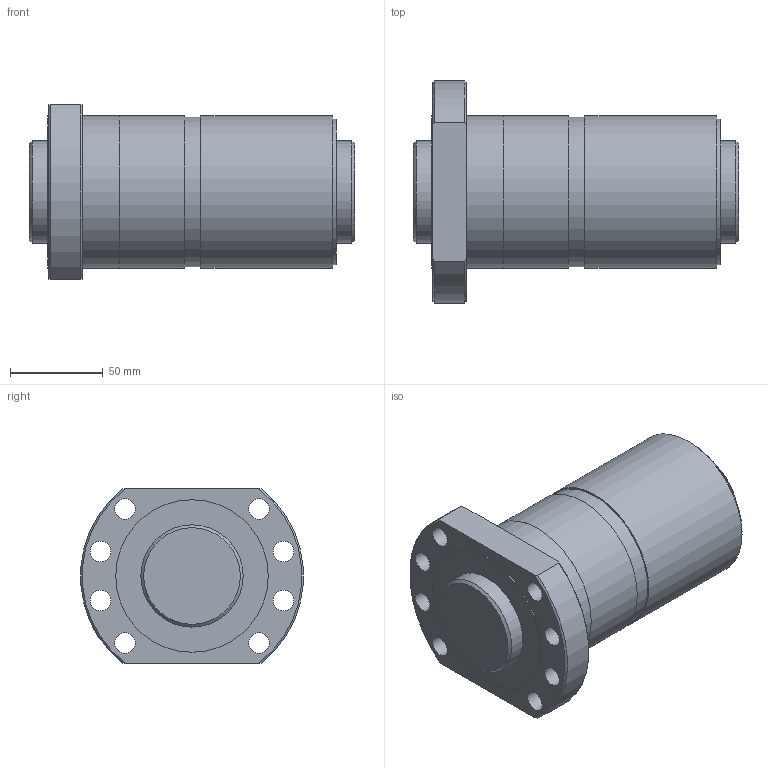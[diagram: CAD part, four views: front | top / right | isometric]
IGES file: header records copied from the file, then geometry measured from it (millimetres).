
Start section: Data from Parasolid IGES Translator 26.0.171, Copyright(c) 2006 Siemens PLM Software. All Rights Reserved.
Global section: file name: SDAN5516VAX-4G0+175LC0(0G000).igs; native system: By Siemens PLM Incorporated; preprocessor: XPlus GENERIC/IGES 26.0.171; author: Noname; organization: Noname; date: 20240704.102210; units: millimetre
Bounding box: 175 x 119.6 x 94 mm (x, y, z)
Surface area: 123263.9 mm2 (no closed solid volume)
Topology: 0 solids, 0 shells, 41 faces, 178 edges, 150 vertices
Faces by surface type: revolution 28, extrusion 13
